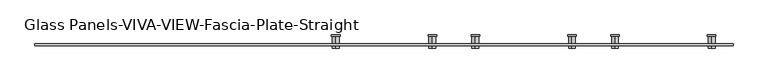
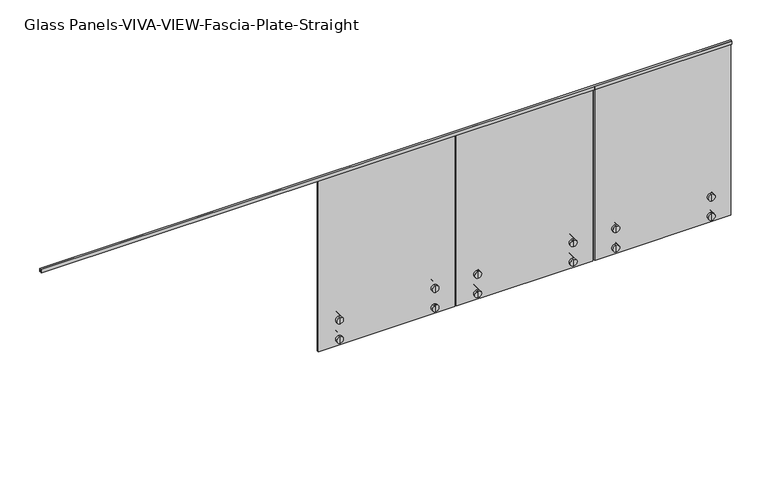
"""IFC4 building model written with IfcOpenShell, lengths in millimetres: railing geometry, Glass Panels-VIVA-VIEW-Fascia-Plate-Straight."""

from ifc_helpers import new_model, si_unit, point, frame, frame_2d, origin, place, context, project, spatial, polyline, circle_curve, trimmed, segment, composite_curve, outline, extrude, source, transform, mapped, element, save
from ifc_brep_helpers import plane_surface, cylinder_surface, advanced_brep


def glass_panels_viva_view_fascia_plate_straight_694c5218(model_context):
    return source(origin(), model_context, "Body", "SolidModel", [
        extrude(outline(polyline([(-15515.2972999, 1092.2), (-15515.2972999, 1066.8), (-15516.8847999, 1066.8), (-15516.8847999, 1090.6125), (-15529.5847999, 1090.6125), (-15529.5847999, 1066.8), (-15531.1722999, 1066.8), (-15531.1722999, 1092.2), (-15515.2972999, 1092.2)])), frame((15089.4712478, 0.0, 0.0), z_axis=(1.0, 0.0, 0.0), x_axis=(0.0, 1.0, 0.0)), (0.0, 0.0, 1.0), 5143.5),
        advanced_brep(
        [(19363.4042944, -15547.047006, -254.0), (19363.4042944, -15547.047006, -203.2), (19363.4042944, -15547.047006, -228.6), (19363.4042944, -15529.584506, -254.0), (19363.4042944, -15529.584506, -203.2), (19363.4042944, -15529.584506, -234.315), (19363.4042944, -15529.584506, -222.885), (19363.4042944, -15516.884506, -234.315), (19363.4042944, -15516.884506, -222.885), (19363.4042944, -15516.884506, -254.0), (19363.4042944, -15516.884506, -203.2), (19363.4042944, -15459.7346529, -254.0), (19363.4042944, -15459.7346529, -203.2), (19363.4042944, -15459.7346529, -228.6)],
        [
            (0, 1, circle_curve(frame((19363.4042944, -15547.047006, -228.6), z_axis=(0.0, -1.0, 0.0), x_axis=(0.0, 0.0, 1.0)), 25.4)),
            (1, 2),
            (2, 0),
            (1, 0, circle_curve(frame((19363.4042944, -15547.047006, -228.6), z_axis=(0.0, -1.0, 0.0), x_axis=(0.0, 0.0, 1.0)), 25.4)),
            (3, 4, circle_curve(frame((19363.4042944, -15529.584506, -228.6), z_axis=(0.0, -1.0, 0.0), x_axis=(0.0, 0.0, 1.0)), 25.4)),
            (4, 1),
            (0, 3),
            (4, 3, circle_curve(frame((19363.4042944, -15529.584506, -228.6), z_axis=(0.0, -1.0, 0.0), x_axis=(0.0, 0.0, 1.0)), 25.4)),
            (5, 6, circle_curve(frame((19363.4042944, -15529.584506, -228.6), z_axis=(0.0, -1.0, 0.0), x_axis=(0.0, 0.0, 1.0)), 5.715)),
            (6, 4),
            (3, 5),
            (6, 5, circle_curve(frame((19363.4042944, -15529.584506, -228.6), z_axis=(0.0, -1.0, 0.0), x_axis=(0.0, 0.0, 1.0)), 5.715)),
            (7, 8, circle_curve(frame((19363.4042944, -15516.884506, -228.6), z_axis=(0.0, -1.0, 0.0), x_axis=(0.0, 0.0, 1.0)), 5.715)),
            (8, 6),
            (5, 7),
            (8, 7, circle_curve(frame((19363.4042944, -15516.884506, -228.6), z_axis=(0.0, -1.0, 0.0), x_axis=(0.0, 0.0, 1.0)), 5.715)),
            (9, 10, circle_curve(frame((19363.4042944, -15516.884506, -228.6), z_axis=(0.0, -1.0, 0.0), x_axis=(0.0, 0.0, 1.0)), 25.4)),
            (10, 8),
            (7, 9),
            (10, 9, circle_curve(frame((19363.4042944, -15516.884506, -228.6), z_axis=(0.0, -1.0, 0.0), x_axis=(0.0, 0.0, 1.0)), 25.4)),
            (11, 12, circle_curve(frame((19363.4042944, -15459.7346529, -228.6), z_axis=(0.0, -1.0, 0.0), x_axis=(0.0, 0.0, 1.0)), 25.4)),
            (12, 10),
            (9, 11),
            (12, 11, circle_curve(frame((19363.4042944, -15459.7346529, -228.6), z_axis=(0.0, -1.0, 0.0), x_axis=(0.0, 0.0, 1.0)), 25.4)),
            (13, 12),
            (11, 13),
        ],
        [
            plane_surface(frame((19363.4042944, -15547.047006, -228.6), z_axis=(0.0, -1.0, 0.0), x_axis=(0.0, 0.0, 1.0))),
            cylinder_surface(frame((19363.4042944, -15615.3096529, -228.6), z_axis=(0.0, 1.0, 0.0), x_axis=(0.0, 0.0, 1.0)), 25.4),
            plane_surface(frame((19363.4042944, -15529.584506, -228.6), z_axis=(0.0, 1.0, 0.0), x_axis=(0.0, 0.0, 1.0))),
            cylinder_surface(frame((19363.4042944, -15615.3096529, -228.6), z_axis=(0.0, 1.0, 0.0), x_axis=(0.0, 0.0, 1.0)), 5.715),
            plane_surface(frame((19363.4042944, -15516.884506, -228.6), z_axis=(0.0, -1.0, 0.0), x_axis=(0.0, 0.0, 1.0))),
            plane_surface(frame((19363.4042944, -15459.7346529, -228.6), z_axis=(0.0, 1.0, 0.0), x_axis=(0.0, 0.0, 1.0))),
        ],
        [
            (0, [[1, 2, 3]]),
            (0, [[4, -3, -2]]),
            (1, [[5, 6, -1, 7]]),
            (1, [[8, -7, -4, -6]]),
            (2, [[9, 10, -5, 11]]),
            (2, [[12, -11, -8, -10]]),
            (3, [[13, 14, -9, 15]]),
            (3, [[16, -15, -12, -14]]),
            (4, [[17, 18, -13, 19]]),
            (4, [[20, -19, -16, -18]]),
            (1, [[21, 22, -17, 23]]),
            (1, [[24, -23, -20, -22]]),
            (5, [[25, -21, 26]]),
            (5, [[-26, -24, -25]]),
        ],
    ),
        advanced_brep(
        [(19363.4042944, -15529.584506, -81.915), (19363.4042944, -15529.584506, -70.485), (19363.4042944, -15529.584506, -50.8), (19363.4042944, -15529.584506, -101.6), (19363.4042944, -15516.884506, -81.915), (19363.4042944, -15516.884506, -70.485), (19363.4042944, -15516.884506, -101.6), (19363.4042944, -15516.884506, -50.8), (19363.4042944, -15459.7346529, -101.6), (19363.4042944, -15459.7346529, -50.8), (19363.4042944, -15459.7346529, -76.2), (19363.4042944, -15547.047006, -101.6), (19363.4042944, -15547.047006, -50.8), (19363.4042944, -15547.047006, -76.2)],
        [
            (0, 1, circle_curve(frame((19363.4042944, -15529.584506, -76.2), z_axis=(0.0, -1.0, 0.0), x_axis=(0.0, 0.0, 1.0)), 5.715)),
            (1, 2),
            (2, 3, circle_curve(frame((19363.4042944, -15529.584506, -76.2), z_axis=(0.0, 1.0, 0.0), x_axis=(0.0, 0.0, 1.0)), 25.4)),
            (3, 0),
            (1, 0, circle_curve(frame((19363.4042944, -15529.584506, -76.2), z_axis=(0.0, -1.0, 0.0), x_axis=(0.0, 0.0, 1.0)), 5.715)),
            (3, 2, circle_curve(frame((19363.4042944, -15529.584506, -76.2), z_axis=(0.0, 1.0, 0.0), x_axis=(0.0, 0.0, 1.0)), 25.4)),
            (4, 5, circle_curve(frame((19363.4042944, -15516.884506, -76.2), z_axis=(0.0, -1.0, 0.0), x_axis=(0.0, 0.0, 1.0)), 5.715)),
            (5, 1),
            (0, 4),
            (5, 4, circle_curve(frame((19363.4042944, -15516.884506, -76.2), z_axis=(0.0, -1.0, 0.0), x_axis=(0.0, 0.0, 1.0)), 5.715)),
            (6, 7, circle_curve(frame((19363.4042944, -15516.884506, -76.2), z_axis=(0.0, -1.0, 0.0), x_axis=(0.0, 0.0, 1.0)), 25.4)),
            (7, 5),
            (4, 6),
            (7, 6, circle_curve(frame((19363.4042944, -15516.884506, -76.2), z_axis=(0.0, -1.0, 0.0), x_axis=(0.0, 0.0, 1.0)), 25.4)),
            (8, 9, circle_curve(frame((19363.4042944, -15459.7346529, -76.2), z_axis=(0.0, -1.0, 0.0), x_axis=(0.0, 0.0, 1.0)), 25.4)),
            (9, 7),
            (6, 8),
            (9, 8, circle_curve(frame((19363.4042944, -15459.7346529, -76.2), z_axis=(0.0, -1.0, 0.0), x_axis=(0.0, 0.0, 1.0)), 25.4)),
            (10, 9),
            (8, 10),
            (11, 12, circle_curve(frame((19363.4042944, -15547.047006, -76.2), z_axis=(0.0, -1.0, 0.0), x_axis=(0.0, 0.0, 1.0)), 25.4)),
            (12, 13),
            (13, 11),
            (12, 11, circle_curve(frame((19363.4042944, -15547.047006, -76.2), z_axis=(0.0, -1.0, 0.0), x_axis=(0.0, 0.0, 1.0)), 25.4)),
            (2, 12),
            (11, 3),
        ],
        [
            plane_surface(frame((19363.4042944, -15529.584506, -76.2), z_axis=(0.0, 1.0, 0.0), x_axis=(0.0, 0.0, 1.0))),
            cylinder_surface(frame((19363.4042944, -15615.3096529, -76.2), z_axis=(0.0, 1.0, 0.0), x_axis=(0.0, 0.0, 1.0)), 5.715),
            plane_surface(frame((19363.4042944, -15516.884506, -76.2), z_axis=(0.0, -1.0, 0.0), x_axis=(0.0, 0.0, 1.0))),
            cylinder_surface(frame((19363.4042944, -15615.3096529, -76.2), z_axis=(0.0, 1.0, 0.0), x_axis=(0.0, 0.0, 1.0)), 25.4),
            plane_surface(frame((19363.4042944, -15459.7346529, -76.2), z_axis=(0.0, 1.0, 0.0), x_axis=(0.0, 0.0, 1.0))),
            plane_surface(frame((19363.4042944, -15547.047006, -76.2), z_axis=(0.0, -1.0, 0.0), x_axis=(0.0, 0.0, 1.0))),
        ],
        [
            (0, [[1, 2, 3, 4]]),
            (0, [[5, -4, 6, -2]]),
            (1, [[7, 8, -1, 9]]),
            (1, [[10, -9, -5, -8]]),
            (2, [[11, 12, -7, 13]]),
            (2, [[14, -13, -10, -12]]),
            (3, [[15, 16, -11, 17]]),
            (3, [[18, -17, -14, -16]]),
            (4, [[19, -15, 20]]),
            (4, [[-20, -18, -19]]),
            (5, [[21, 22, 23]]),
            (5, [[24, -23, -22]]),
            (3, [[-3, 25, -21, 26]]),
            (3, [[-6, -26, -24, -25]]),
        ],
    ),
        extrude(outline(composite_curve([segment(polyline([(-76.2, 19331.6542944), (-228.6, 19331.6542944)]), True, "CONTINUOUS"), segment(trimmed(circle_curve(frame_2d((-228.6, 19363.4042944)), 31.75), [point((-228.6, 19331.6542944))], [point((-228.6, 19395.1542944))], False, "CARTESIAN"), True, "CONTINUOUS"), segment(polyline([(-228.6, 19395.1542944), (-76.2, 19395.1542944)]), True, "CONTINUOUS"), segment(trimmed(circle_curve(frame_2d((-76.2, 19363.4042944)), 31.75), [point((-76.2, 19395.1542944))], [point((-76.2, 19331.6542944))], False, "CARTESIAN"), True, "CONTINUOUS")], self_intersect=False)), frame((0.0, -15459.7346529, 0.0), z_axis=(0.0, 1.0, 0.0), x_axis=(0.0, 0.0, 1.0)), (0.0, 0.0, 1.0), 9.525),
        advanced_brep(
        [(20074.6042944, -15547.047006, -254.0), (20074.6042944, -15547.047006, -203.2), (20074.6042944, -15547.047006, -228.6), (20074.6042944, -15529.584506, -254.0), (20074.6042944, -15529.584506, -203.2), (20074.6042944, -15529.584506, -234.315), (20074.6042944, -15529.584506, -222.885), (20074.6042944, -15516.884506, -234.315), (20074.6042944, -15516.884506, -222.885), (20074.6042944, -15516.884506, -254.0), (20074.6042944, -15516.884506, -203.2), (20074.6042944, -15459.7346529, -254.0), (20074.6042944, -15459.7346529, -203.2), (20074.6042944, -15459.7346529, -228.6)],
        [
            (0, 1, circle_curve(frame((20074.6042944, -15547.047006, -228.6), z_axis=(0.0, -1.0, 0.0), x_axis=(0.0, 0.0, 1.0)), 25.4)),
            (1, 2),
            (2, 0),
            (1, 0, circle_curve(frame((20074.6042944, -15547.047006, -228.6), z_axis=(0.0, -1.0, 0.0), x_axis=(0.0, 0.0, 1.0)), 25.4)),
            (3, 4, circle_curve(frame((20074.6042944, -15529.584506, -228.6), z_axis=(0.0, -1.0, 0.0), x_axis=(0.0, 0.0, 1.0)), 25.4)),
            (4, 1),
            (0, 3),
            (4, 3, circle_curve(frame((20074.6042944, -15529.584506, -228.6), z_axis=(0.0, -1.0, 0.0), x_axis=(0.0, 0.0, 1.0)), 25.4)),
            (5, 6, circle_curve(frame((20074.6042944, -15529.584506, -228.6), z_axis=(0.0, -1.0, 0.0), x_axis=(0.0, 0.0, 1.0)), 5.715)),
            (6, 4),
            (3, 5),
            (6, 5, circle_curve(frame((20074.6042944, -15529.584506, -228.6), z_axis=(0.0, -1.0, 0.0), x_axis=(0.0, 0.0, 1.0)), 5.715)),
            (7, 8, circle_curve(frame((20074.6042944, -15516.884506, -228.6), z_axis=(0.0, -1.0, 0.0), x_axis=(0.0, 0.0, 1.0)), 5.715)),
            (8, 6),
            (5, 7),
            (8, 7, circle_curve(frame((20074.6042944, -15516.884506, -228.6), z_axis=(0.0, -1.0, 0.0), x_axis=(0.0, 0.0, 1.0)), 5.715)),
            (9, 10, circle_curve(frame((20074.6042944, -15516.884506, -228.6), z_axis=(0.0, -1.0, 0.0), x_axis=(0.0, 0.0, 1.0)), 25.4)),
            (10, 8),
            (7, 9),
            (10, 9, circle_curve(frame((20074.6042944, -15516.884506, -228.6), z_axis=(0.0, -1.0, 0.0), x_axis=(0.0, 0.0, 1.0)), 25.4)),
            (11, 12, circle_curve(frame((20074.6042944, -15459.7346529, -228.6), z_axis=(0.0, -1.0, 0.0), x_axis=(0.0, 0.0, 1.0)), 25.4)),
            (12, 10),
            (9, 11),
            (12, 11, circle_curve(frame((20074.6042944, -15459.7346529, -228.6), z_axis=(0.0, -1.0, 0.0), x_axis=(0.0, 0.0, 1.0)), 25.4)),
            (13, 12),
            (11, 13),
        ],
        [
            plane_surface(frame((20074.6042944, -15547.047006, -228.6), z_axis=(0.0, -1.0, 0.0), x_axis=(0.0, 0.0, 1.0))),
            cylinder_surface(frame((20074.6042944, -15615.3096529, -228.6), z_axis=(0.0, 1.0, 0.0), x_axis=(0.0, 0.0, 1.0)), 25.4),
            plane_surface(frame((20074.6042944, -15529.584506, -228.6), z_axis=(0.0, 1.0, 0.0), x_axis=(0.0, 0.0, 1.0))),
            cylinder_surface(frame((20074.6042944, -15615.3096529, -228.6), z_axis=(0.0, 1.0, 0.0), x_axis=(0.0, 0.0, 1.0)), 5.715),
            plane_surface(frame((20074.6042944, -15516.884506, -228.6), z_axis=(0.0, -1.0, 0.0), x_axis=(0.0, 0.0, 1.0))),
            plane_surface(frame((20074.6042944, -15459.7346529, -228.6), z_axis=(0.0, 1.0, 0.0), x_axis=(0.0, 0.0, 1.0))),
        ],
        [
            (0, [[1, 2, 3]]),
            (0, [[4, -3, -2]]),
            (1, [[5, 6, -1, 7]]),
            (1, [[8, -7, -4, -6]]),
            (2, [[9, 10, -5, 11]]),
            (2, [[12, -11, -8, -10]]),
            (3, [[13, 14, -9, 15]]),
            (3, [[16, -15, -12, -14]]),
            (4, [[17, 18, -13, 19]]),
            (4, [[20, -19, -16, -18]]),
            (1, [[21, 22, -17, 23]]),
            (1, [[24, -23, -20, -22]]),
            (5, [[25, -21, 26]]),
            (5, [[-26, -24, -25]]),
        ],
    ),
        advanced_brep(
        [(20074.6042944, -15529.584506, -81.915), (20074.6042944, -15529.584506, -70.485), (20074.6042944, -15529.584506, -50.8), (20074.6042944, -15529.584506, -101.6), (20074.6042944, -15516.884506, -81.915), (20074.6042944, -15516.884506, -70.485), (20074.6042944, -15516.884506, -101.6), (20074.6042944, -15516.884506, -50.8), (20074.6042944, -15459.7346529, -101.6), (20074.6042944, -15459.7346529, -50.8), (20074.6042944, -15459.7346529, -76.2), (20074.6042944, -15547.047006, -101.6), (20074.6042944, -15547.047006, -50.8), (20074.6042944, -15547.047006, -76.2)],
        [
            (0, 1, circle_curve(frame((20074.6042944, -15529.584506, -76.2), z_axis=(0.0, -1.0, 0.0), x_axis=(0.0, 0.0, 1.0)), 5.715)),
            (1, 2),
            (2, 3, circle_curve(frame((20074.6042944, -15529.584506, -76.2), z_axis=(0.0, 1.0, 0.0), x_axis=(0.0, 0.0, 1.0)), 25.4)),
            (3, 0),
            (1, 0, circle_curve(frame((20074.6042944, -15529.584506, -76.2), z_axis=(0.0, -1.0, 0.0), x_axis=(0.0, 0.0, 1.0)), 5.715)),
            (3, 2, circle_curve(frame((20074.6042944, -15529.584506, -76.2), z_axis=(0.0, 1.0, 0.0), x_axis=(0.0, 0.0, 1.0)), 25.4)),
            (4, 5, circle_curve(frame((20074.6042944, -15516.884506, -76.2), z_axis=(0.0, -1.0, 0.0), x_axis=(0.0, 0.0, 1.0)), 5.715)),
            (5, 1),
            (0, 4),
            (5, 4, circle_curve(frame((20074.6042944, -15516.884506, -76.2), z_axis=(0.0, -1.0, 0.0), x_axis=(0.0, 0.0, 1.0)), 5.715)),
            (6, 7, circle_curve(frame((20074.6042944, -15516.884506, -76.2), z_axis=(0.0, -1.0, 0.0), x_axis=(0.0, 0.0, 1.0)), 25.4)),
            (7, 5),
            (4, 6),
            (7, 6, circle_curve(frame((20074.6042944, -15516.884506, -76.2), z_axis=(0.0, -1.0, 0.0), x_axis=(0.0, 0.0, 1.0)), 25.4)),
            (8, 9, circle_curve(frame((20074.6042944, -15459.7346529, -76.2), z_axis=(0.0, -1.0, 0.0), x_axis=(0.0, 0.0, 1.0)), 25.4)),
            (9, 7),
            (6, 8),
            (9, 8, circle_curve(frame((20074.6042944, -15459.7346529, -76.2), z_axis=(0.0, -1.0, 0.0), x_axis=(0.0, 0.0, 1.0)), 25.4)),
            (10, 9),
            (8, 10),
            (11, 12, circle_curve(frame((20074.6042944, -15547.047006, -76.2), z_axis=(0.0, -1.0, 0.0), x_axis=(0.0, 0.0, 1.0)), 25.4)),
            (12, 13),
            (13, 11),
            (12, 11, circle_curve(frame((20074.6042944, -15547.047006, -76.2), z_axis=(0.0, -1.0, 0.0), x_axis=(0.0, 0.0, 1.0)), 25.4)),
            (2, 12),
            (11, 3),
        ],
        [
            plane_surface(frame((20074.6042944, -15529.584506, -76.2), z_axis=(0.0, 1.0, 0.0), x_axis=(0.0, 0.0, 1.0))),
            cylinder_surface(frame((20074.6042944, -15615.3096529, -76.2), z_axis=(0.0, 1.0, 0.0), x_axis=(0.0, 0.0, 1.0)), 5.715),
            plane_surface(frame((20074.6042944, -15516.884506, -76.2), z_axis=(0.0, -1.0, 0.0), x_axis=(0.0, 0.0, 1.0))),
            cylinder_surface(frame((20074.6042944, -15615.3096529, -76.2), z_axis=(0.0, 1.0, 0.0), x_axis=(0.0, 0.0, 1.0)), 25.4),
            plane_surface(frame((20074.6042944, -15459.7346529, -76.2), z_axis=(0.0, 1.0, 0.0), x_axis=(0.0, 0.0, 1.0))),
            plane_surface(frame((20074.6042944, -15547.047006, -76.2), z_axis=(0.0, -1.0, 0.0), x_axis=(0.0, 0.0, 1.0))),
        ],
        [
            (0, [[1, 2, 3, 4]]),
            (0, [[5, -4, 6, -2]]),
            (1, [[7, 8, -1, 9]]),
            (1, [[10, -9, -5, -8]]),
            (2, [[11, 12, -7, 13]]),
            (2, [[14, -13, -10, -12]]),
            (3, [[15, 16, -11, 17]]),
            (3, [[18, -17, -14, -16]]),
            (4, [[19, -15, 20]]),
            (4, [[-20, -18, -19]]),
            (5, [[21, 22, 23]]),
            (5, [[24, -23, -22]]),
            (3, [[-3, 25, -21, 26]]),
            (3, [[-6, -26, -24, -25]]),
        ],
    ),
        extrude(outline(composite_curve([segment(polyline([(-76.2, 20042.8542944), (-228.6, 20042.8542944)]), True, "CONTINUOUS"), segment(trimmed(circle_curve(frame_2d((-228.6, 20074.6042944)), 31.75), [point((-228.6, 20042.8542944))], [point((-228.6, 20106.3542944))], False, "CARTESIAN"), True, "CONTINUOUS"), segment(polyline([(-228.6, 20106.3542944), (-76.2, 20106.3542944)]), True, "CONTINUOUS"), segment(trimmed(circle_curve(frame_2d((-76.2, 20074.6042944)), 31.75), [point((-76.2, 20106.3542944))], [point((-76.2, 20042.8542944))], False, "CARTESIAN"), True, "CONTINUOUS")], self_intersect=False)), frame((0.0, -15459.7346529, 0.0), z_axis=(0.0, 1.0, 0.0), x_axis=(0.0, 0.0, 1.0)), (0.0, 0.0, 1.0), 9.525),
        extrude(outline(polyline([(19211.0042944, -15516.8847999), (20227.0042944, -15516.8847999), (20227.0042944, -15529.5847999), (19211.0042944, -15529.5847999), (19211.0042944, -15516.8847999)])), frame((0.0, 0.0, -279.4), z_axis=(0.0, 0.0, 1.0), x_axis=(1.0, 0.0, 0.0)), (0.0, 0.0, 1.0), 1370.0125),
        advanced_brep(
        [(18334.7042944, -15547.047006, -254.0), (18334.7042944, -15547.047006, -203.2), (18334.7042944, -15547.047006, -228.6), (18334.7042944, -15529.584506, -254.0), (18334.7042944, -15529.584506, -203.2), (18334.7042944, -15529.584506, -234.315), (18334.7042944, -15529.584506, -222.885), (18334.7042944, -15516.884506, -234.315), (18334.7042944, -15516.884506, -222.885), (18334.7042944, -15516.884506, -254.0), (18334.7042944, -15516.884506, -203.2), (18334.7042944, -15459.7346529, -254.0), (18334.7042944, -15459.7346529, -203.2), (18334.7042944, -15459.7346529, -228.6)],
        [
            (0, 1, circle_curve(frame((18334.7042944, -15547.047006, -228.6), z_axis=(0.0, -1.0, 0.0), x_axis=(0.0, 0.0, 1.0)), 25.4)),
            (1, 2),
            (2, 0),
            (1, 0, circle_curve(frame((18334.7042944, -15547.047006, -228.6), z_axis=(0.0, -1.0, 0.0), x_axis=(0.0, 0.0, 1.0)), 25.4)),
            (3, 4, circle_curve(frame((18334.7042944, -15529.584506, -228.6), z_axis=(0.0, -1.0, 0.0), x_axis=(0.0, 0.0, 1.0)), 25.4)),
            (4, 1),
            (0, 3),
            (4, 3, circle_curve(frame((18334.7042944, -15529.584506, -228.6), z_axis=(0.0, -1.0, 0.0), x_axis=(0.0, 0.0, 1.0)), 25.4)),
            (5, 6, circle_curve(frame((18334.7042944, -15529.584506, -228.6), z_axis=(0.0, -1.0, 0.0), x_axis=(0.0, 0.0, 1.0)), 5.715)),
            (6, 4),
            (3, 5),
            (6, 5, circle_curve(frame((18334.7042944, -15529.584506, -228.6), z_axis=(0.0, -1.0, 0.0), x_axis=(0.0, 0.0, 1.0)), 5.715)),
            (7, 8, circle_curve(frame((18334.7042944, -15516.884506, -228.6), z_axis=(0.0, -1.0, 0.0), x_axis=(0.0, 0.0, 1.0)), 5.715)),
            (8, 6),
            (5, 7),
            (8, 7, circle_curve(frame((18334.7042944, -15516.884506, -228.6), z_axis=(0.0, -1.0, 0.0), x_axis=(0.0, 0.0, 1.0)), 5.715)),
            (9, 10, circle_curve(frame((18334.7042944, -15516.884506, -228.6), z_axis=(0.0, -1.0, 0.0), x_axis=(0.0, 0.0, 1.0)), 25.4)),
            (10, 8),
            (7, 9),
            (10, 9, circle_curve(frame((18334.7042944, -15516.884506, -228.6), z_axis=(0.0, -1.0, 0.0), x_axis=(0.0, 0.0, 1.0)), 25.4)),
            (11, 12, circle_curve(frame((18334.7042944, -15459.7346529, -228.6), z_axis=(0.0, -1.0, 0.0), x_axis=(0.0, 0.0, 1.0)), 25.4)),
            (12, 10),
            (9, 11),
            (12, 11, circle_curve(frame((18334.7042944, -15459.7346529, -228.6), z_axis=(0.0, -1.0, 0.0), x_axis=(0.0, 0.0, 1.0)), 25.4)),
            (13, 12),
            (11, 13),
        ],
        [
            plane_surface(frame((18334.7042944, -15547.047006, -228.6), z_axis=(0.0, -1.0, 0.0), x_axis=(0.0, 0.0, 1.0))),
            cylinder_surface(frame((18334.7042944, -15615.3096529, -228.6), z_axis=(0.0, 1.0, 0.0), x_axis=(0.0, 0.0, 1.0)), 25.4),
            plane_surface(frame((18334.7042944, -15529.584506, -228.6), z_axis=(0.0, 1.0, 0.0), x_axis=(0.0, 0.0, 1.0))),
            cylinder_surface(frame((18334.7042944, -15615.3096529, -228.6), z_axis=(0.0, 1.0, 0.0), x_axis=(0.0, 0.0, 1.0)), 5.715),
            plane_surface(frame((18334.7042944, -15516.884506, -228.6), z_axis=(0.0, -1.0, 0.0), x_axis=(0.0, 0.0, 1.0))),
            plane_surface(frame((18334.7042944, -15459.7346529, -228.6), z_axis=(0.0, 1.0, 0.0), x_axis=(0.0, 0.0, 1.0))),
        ],
        [
            (0, [[1, 2, 3]]),
            (0, [[4, -3, -2]]),
            (1, [[5, 6, -1, 7]]),
            (1, [[8, -7, -4, -6]]),
            (2, [[9, 10, -5, 11]]),
            (2, [[12, -11, -8, -10]]),
            (3, [[13, 14, -9, 15]]),
            (3, [[16, -15, -12, -14]]),
            (4, [[17, 18, -13, 19]]),
            (4, [[20, -19, -16, -18]]),
            (1, [[21, 22, -17, 23]]),
            (1, [[24, -23, -20, -22]]),
            (5, [[25, -21, 26]]),
            (5, [[-26, -24, -25]]),
        ],
    ),
        advanced_brep(
        [(18334.7042944, -15529.584506, -81.915), (18334.7042944, -15529.584506, -70.485), (18334.7042944, -15529.584506, -50.8), (18334.7042944, -15529.584506, -101.6), (18334.7042944, -15516.884506, -81.915), (18334.7042944, -15516.884506, -70.485), (18334.7042944, -15516.884506, -101.6), (18334.7042944, -15516.884506, -50.8), (18334.7042944, -15459.7346529, -101.6), (18334.7042944, -15459.7346529, -50.8), (18334.7042944, -15459.7346529, -76.2), (18334.7042944, -15547.047006, -101.6), (18334.7042944, -15547.047006, -50.8), (18334.7042944, -15547.047006, -76.2)],
        [
            (0, 1, circle_curve(frame((18334.7042944, -15529.584506, -76.2), z_axis=(0.0, -1.0, 0.0), x_axis=(0.0, 0.0, 1.0)), 5.715)),
            (1, 2),
            (2, 3, circle_curve(frame((18334.7042944, -15529.584506, -76.2), z_axis=(0.0, 1.0, 0.0), x_axis=(0.0, 0.0, 1.0)), 25.4)),
            (3, 0),
            (1, 0, circle_curve(frame((18334.7042944, -15529.584506, -76.2), z_axis=(0.0, -1.0, 0.0), x_axis=(0.0, 0.0, 1.0)), 5.715)),
            (3, 2, circle_curve(frame((18334.7042944, -15529.584506, -76.2), z_axis=(0.0, 1.0, 0.0), x_axis=(0.0, 0.0, 1.0)), 25.4)),
            (4, 5, circle_curve(frame((18334.7042944, -15516.884506, -76.2), z_axis=(0.0, -1.0, 0.0), x_axis=(0.0, 0.0, 1.0)), 5.715)),
            (5, 1),
            (0, 4),
            (5, 4, circle_curve(frame((18334.7042944, -15516.884506, -76.2), z_axis=(0.0, -1.0, 0.0), x_axis=(0.0, 0.0, 1.0)), 5.715)),
            (6, 7, circle_curve(frame((18334.7042944, -15516.884506, -76.2), z_axis=(0.0, -1.0, 0.0), x_axis=(0.0, 0.0, 1.0)), 25.4)),
            (7, 5),
            (4, 6),
            (7, 6, circle_curve(frame((18334.7042944, -15516.884506, -76.2), z_axis=(0.0, -1.0, 0.0), x_axis=(0.0, 0.0, 1.0)), 25.4)),
            (8, 9, circle_curve(frame((18334.7042944, -15459.7346529, -76.2), z_axis=(0.0, -1.0, 0.0), x_axis=(0.0, 0.0, 1.0)), 25.4)),
            (9, 7),
            (6, 8),
            (9, 8, circle_curve(frame((18334.7042944, -15459.7346529, -76.2), z_axis=(0.0, -1.0, 0.0), x_axis=(0.0, 0.0, 1.0)), 25.4)),
            (10, 9),
            (8, 10),
            (11, 12, circle_curve(frame((18334.7042944, -15547.047006, -76.2), z_axis=(0.0, -1.0, 0.0), x_axis=(0.0, 0.0, 1.0)), 25.4)),
            (12, 13),
            (13, 11),
            (12, 11, circle_curve(frame((18334.7042944, -15547.047006, -76.2), z_axis=(0.0, -1.0, 0.0), x_axis=(0.0, 0.0, 1.0)), 25.4)),
            (2, 12),
            (11, 3),
        ],
        [
            plane_surface(frame((18334.7042944, -15529.584506, -76.2), z_axis=(0.0, 1.0, 0.0), x_axis=(0.0, 0.0, 1.0))),
            cylinder_surface(frame((18334.7042944, -15615.3096529, -76.2), z_axis=(0.0, 1.0, 0.0), x_axis=(0.0, 0.0, 1.0)), 5.715),
            plane_surface(frame((18334.7042944, -15516.884506, -76.2), z_axis=(0.0, -1.0, 0.0), x_axis=(0.0, 0.0, 1.0))),
            cylinder_surface(frame((18334.7042944, -15615.3096529, -76.2), z_axis=(0.0, 1.0, 0.0), x_axis=(0.0, 0.0, 1.0)), 25.4),
            plane_surface(frame((18334.7042944, -15459.7346529, -76.2), z_axis=(0.0, 1.0, 0.0), x_axis=(0.0, 0.0, 1.0))),
            plane_surface(frame((18334.7042944, -15547.047006, -76.2), z_axis=(0.0, -1.0, 0.0), x_axis=(0.0, 0.0, 1.0))),
        ],
        [
            (0, [[1, 2, 3, 4]]),
            (0, [[5, -4, 6, -2]]),
            (1, [[7, 8, -1, 9]]),
            (1, [[10, -9, -5, -8]]),
            (2, [[11, 12, -7, 13]]),
            (2, [[14, -13, -10, -12]]),
            (3, [[15, 16, -11, 17]]),
            (3, [[18, -17, -14, -16]]),
            (4, [[19, -15, 20]]),
            (4, [[-20, -18, -19]]),
            (5, [[21, 22, 23]]),
            (5, [[24, -23, -22]]),
            (3, [[-3, 25, -21, 26]]),
            (3, [[-6, -26, -24, -25]]),
        ],
    ),
        extrude(outline(composite_curve([segment(polyline([(-76.2, 18302.9542944), (-228.6, 18302.9542944)]), True, "CONTINUOUS"), segment(trimmed(circle_curve(frame_2d((-228.6, 18334.7042944)), 31.75), [point((-228.6, 18302.9542944))], [point((-228.6, 18366.4542944))], False, "CARTESIAN"), True, "CONTINUOUS"), segment(polyline([(-228.6, 18366.4542944), (-76.2, 18366.4542944)]), True, "CONTINUOUS"), segment(trimmed(circle_curve(frame_2d((-76.2, 18334.7042944)), 31.75), [point((-76.2, 18366.4542944))], [point((-76.2, 18302.9542944))], False, "CARTESIAN"), True, "CONTINUOUS")], self_intersect=False)), frame((0.0, -15459.7346529, 0.0), z_axis=(0.0, 1.0, 0.0), x_axis=(0.0, 0.0, 1.0)), (0.0, 0.0, 1.0), 9.525),
        advanced_brep(
        [(19045.9042944, -15547.047006, -254.0), (19045.9042944, -15547.047006, -203.2), (19045.9042944, -15547.047006, -228.6), (19045.9042944, -15529.584506, -254.0), (19045.9042944, -15529.584506, -203.2), (19045.9042944, -15529.584506, -234.315), (19045.9042944, -15529.584506, -222.885), (19045.9042944, -15516.884506, -234.315), (19045.9042944, -15516.884506, -222.885), (19045.9042944, -15516.884506, -254.0), (19045.9042944, -15516.884506, -203.2), (19045.9042944, -15459.7346529, -254.0), (19045.9042944, -15459.7346529, -203.2), (19045.9042944, -15459.7346529, -228.6)],
        [
            (0, 1, circle_curve(frame((19045.9042944, -15547.047006, -228.6), z_axis=(0.0, -1.0, 0.0), x_axis=(0.0, 0.0, 1.0)), 25.4)),
            (1, 2),
            (2, 0),
            (1, 0, circle_curve(frame((19045.9042944, -15547.047006, -228.6), z_axis=(0.0, -1.0, 0.0), x_axis=(0.0, 0.0, 1.0)), 25.4)),
            (3, 4, circle_curve(frame((19045.9042944, -15529.584506, -228.6), z_axis=(0.0, -1.0, 0.0), x_axis=(0.0, 0.0, 1.0)), 25.4)),
            (4, 1),
            (0, 3),
            (4, 3, circle_curve(frame((19045.9042944, -15529.584506, -228.6), z_axis=(0.0, -1.0, 0.0), x_axis=(0.0, 0.0, 1.0)), 25.4)),
            (5, 6, circle_curve(frame((19045.9042944, -15529.584506, -228.6), z_axis=(0.0, -1.0, 0.0), x_axis=(0.0, 0.0, 1.0)), 5.715)),
            (6, 4),
            (3, 5),
            (6, 5, circle_curve(frame((19045.9042944, -15529.584506, -228.6), z_axis=(0.0, -1.0, 0.0), x_axis=(0.0, 0.0, 1.0)), 5.715)),
            (7, 8, circle_curve(frame((19045.9042944, -15516.884506, -228.6), z_axis=(0.0, -1.0, 0.0), x_axis=(0.0, 0.0, 1.0)), 5.715)),
            (8, 6),
            (5, 7),
            (8, 7, circle_curve(frame((19045.9042944, -15516.884506, -228.6), z_axis=(0.0, -1.0, 0.0), x_axis=(0.0, 0.0, 1.0)), 5.715)),
            (9, 10, circle_curve(frame((19045.9042944, -15516.884506, -228.6), z_axis=(0.0, -1.0, 0.0), x_axis=(0.0, 0.0, 1.0)), 25.4)),
            (10, 8),
            (7, 9),
            (10, 9, circle_curve(frame((19045.9042944, -15516.884506, -228.6), z_axis=(0.0, -1.0, 0.0), x_axis=(0.0, 0.0, 1.0)), 25.4)),
            (11, 12, circle_curve(frame((19045.9042944, -15459.7346529, -228.6), z_axis=(0.0, -1.0, 0.0), x_axis=(0.0, 0.0, 1.0)), 25.4)),
            (12, 10),
            (9, 11),
            (12, 11, circle_curve(frame((19045.9042944, -15459.7346529, -228.6), z_axis=(0.0, -1.0, 0.0), x_axis=(0.0, 0.0, 1.0)), 25.4)),
            (13, 12),
            (11, 13),
        ],
        [
            plane_surface(frame((19045.9042944, -15547.047006, -228.6), z_axis=(0.0, -1.0, 0.0), x_axis=(0.0, 0.0, 1.0))),
            cylinder_surface(frame((19045.9042944, -15615.3096529, -228.6), z_axis=(0.0, 1.0, 0.0), x_axis=(0.0, 0.0, 1.0)), 25.4),
            plane_surface(frame((19045.9042944, -15529.584506, -228.6), z_axis=(0.0, 1.0, 0.0), x_axis=(0.0, 0.0, 1.0))),
            cylinder_surface(frame((19045.9042944, -15615.3096529, -228.6), z_axis=(0.0, 1.0, 0.0), x_axis=(0.0, 0.0, 1.0)), 5.715),
            plane_surface(frame((19045.9042944, -15516.884506, -228.6), z_axis=(0.0, -1.0, 0.0), x_axis=(0.0, 0.0, 1.0))),
            plane_surface(frame((19045.9042944, -15459.7346529, -228.6), z_axis=(0.0, 1.0, 0.0), x_axis=(0.0, 0.0, 1.0))),
        ],
        [
            (0, [[1, 2, 3]]),
            (0, [[4, -3, -2]]),
            (1, [[5, 6, -1, 7]]),
            (1, [[8, -7, -4, -6]]),
            (2, [[9, 10, -5, 11]]),
            (2, [[12, -11, -8, -10]]),
            (3, [[13, 14, -9, 15]]),
            (3, [[16, -15, -12, -14]]),
            (4, [[17, 18, -13, 19]]),
            (4, [[20, -19, -16, -18]]),
            (1, [[21, 22, -17, 23]]),
            (1, [[24, -23, -20, -22]]),
            (5, [[25, -21, 26]]),
            (5, [[-26, -24, -25]]),
        ],
    ),
        advanced_brep(
        [(19045.9042944, -15529.584506, -81.915), (19045.9042944, -15529.584506, -70.485), (19045.9042944, -15529.584506, -50.8), (19045.9042944, -15529.584506, -101.6), (19045.9042944, -15516.884506, -81.915), (19045.9042944, -15516.884506, -70.485), (19045.9042944, -15516.884506, -101.6), (19045.9042944, -15516.884506, -50.8), (19045.9042944, -15459.7346529, -101.6), (19045.9042944, -15459.7346529, -50.8), (19045.9042944, -15459.7346529, -76.2), (19045.9042944, -15547.047006, -101.6), (19045.9042944, -15547.047006, -50.8), (19045.9042944, -15547.047006, -76.2)],
        [
            (0, 1, circle_curve(frame((19045.9042944, -15529.584506, -76.2), z_axis=(0.0, -1.0, 0.0), x_axis=(0.0, 0.0, 1.0)), 5.715)),
            (1, 2),
            (2, 3, circle_curve(frame((19045.9042944, -15529.584506, -76.2), z_axis=(0.0, 1.0, 0.0), x_axis=(0.0, 0.0, 1.0)), 25.4)),
            (3, 0),
            (1, 0, circle_curve(frame((19045.9042944, -15529.584506, -76.2), z_axis=(0.0, -1.0, 0.0), x_axis=(0.0, 0.0, 1.0)), 5.715)),
            (3, 2, circle_curve(frame((19045.9042944, -15529.584506, -76.2), z_axis=(0.0, 1.0, 0.0), x_axis=(0.0, 0.0, 1.0)), 25.4)),
            (4, 5, circle_curve(frame((19045.9042944, -15516.884506, -76.2), z_axis=(0.0, -1.0, 0.0), x_axis=(0.0, 0.0, 1.0)), 5.715)),
            (5, 1),
            (0, 4),
            (5, 4, circle_curve(frame((19045.9042944, -15516.884506, -76.2), z_axis=(0.0, -1.0, 0.0), x_axis=(0.0, 0.0, 1.0)), 5.715)),
            (6, 7, circle_curve(frame((19045.9042944, -15516.884506, -76.2), z_axis=(0.0, -1.0, 0.0), x_axis=(0.0, 0.0, 1.0)), 25.4)),
            (7, 5),
            (4, 6),
            (7, 6, circle_curve(frame((19045.9042944, -15516.884506, -76.2), z_axis=(0.0, -1.0, 0.0), x_axis=(0.0, 0.0, 1.0)), 25.4)),
            (8, 9, circle_curve(frame((19045.9042944, -15459.7346529, -76.2), z_axis=(0.0, -1.0, 0.0), x_axis=(0.0, 0.0, 1.0)), 25.4)),
            (9, 7),
            (6, 8),
            (9, 8, circle_curve(frame((19045.9042944, -15459.7346529, -76.2), z_axis=(0.0, -1.0, 0.0), x_axis=(0.0, 0.0, 1.0)), 25.4)),
            (10, 9),
            (8, 10),
            (11, 12, circle_curve(frame((19045.9042944, -15547.047006, -76.2), z_axis=(0.0, -1.0, 0.0), x_axis=(0.0, 0.0, 1.0)), 25.4)),
            (12, 13),
            (13, 11),
            (12, 11, circle_curve(frame((19045.9042944, -15547.047006, -76.2), z_axis=(0.0, -1.0, 0.0), x_axis=(0.0, 0.0, 1.0)), 25.4)),
            (2, 12),
            (11, 3),
        ],
        [
            plane_surface(frame((19045.9042944, -15529.584506, -76.2), z_axis=(0.0, 1.0, 0.0), x_axis=(0.0, 0.0, 1.0))),
            cylinder_surface(frame((19045.9042944, -15615.3096529, -76.2), z_axis=(0.0, 1.0, 0.0), x_axis=(0.0, 0.0, 1.0)), 5.715),
            plane_surface(frame((19045.9042944, -15516.884506, -76.2), z_axis=(0.0, -1.0, 0.0), x_axis=(0.0, 0.0, 1.0))),
            cylinder_surface(frame((19045.9042944, -15615.3096529, -76.2), z_axis=(0.0, 1.0, 0.0), x_axis=(0.0, 0.0, 1.0)), 25.4),
            plane_surface(frame((19045.9042944, -15459.7346529, -76.2), z_axis=(0.0, 1.0, 0.0), x_axis=(0.0, 0.0, 1.0))),
            plane_surface(frame((19045.9042944, -15547.047006, -76.2), z_axis=(0.0, -1.0, 0.0), x_axis=(0.0, 0.0, 1.0))),
        ],
        [
            (0, [[1, 2, 3, 4]]),
            (0, [[5, -4, 6, -2]]),
            (1, [[7, 8, -1, 9]]),
            (1, [[10, -9, -5, -8]]),
            (2, [[11, 12, -7, 13]]),
            (2, [[14, -13, -10, -12]]),
            (3, [[15, 16, -11, 17]]),
            (3, [[18, -17, -14, -16]]),
            (4, [[19, -15, 20]]),
            (4, [[-20, -18, -19]]),
            (5, [[21, 22, 23]]),
            (5, [[24, -23, -22]]),
            (3, [[-3, 25, -21, 26]]),
            (3, [[-6, -26, -24, -25]]),
        ],
    ),
        extrude(outline(composite_curve([segment(polyline([(-76.2, 19014.1542944), (-228.6, 19014.1542944)]), True, "CONTINUOUS"), segment(trimmed(circle_curve(frame_2d((-228.6, 19045.9042944)), 31.75), [point((-228.6, 19014.1542944))], [point((-228.6, 19077.6542944))], False, "CARTESIAN"), True, "CONTINUOUS"), segment(polyline([(-228.6, 19077.6542944), (-76.2, 19077.6542944)]), True, "CONTINUOUS"), segment(trimmed(circle_curve(frame_2d((-76.2, 19045.9042944)), 31.75), [point((-76.2, 19077.6542944))], [point((-76.2, 19014.1542944))], False, "CARTESIAN"), True, "CONTINUOUS")], self_intersect=False)), frame((0.0, -15459.7346529, 0.0), z_axis=(0.0, 1.0, 0.0), x_axis=(0.0, 0.0, 1.0)), (0.0, 0.0, 1.0), 9.525),
        extrude(outline(polyline([(18182.3042944, -15516.8847999), (19198.3042944, -15516.8847999), (19198.3042944, -15529.5847999), (18182.3042944, -15529.5847999), (18182.3042944, -15516.8847999)])), frame((0.0, 0.0, -279.4), z_axis=(0.0, 0.0, 1.0), x_axis=(1.0, 0.0, 0.0)), (0.0, 0.0, 1.0), 1370.0125),
        advanced_brep(
        [(17306.0042944, -15547.047006, -254.0), (17306.0042944, -15547.047006, -203.2), (17306.0042944, -15547.047006, -228.6), (17306.0042944, -15529.584506, -254.0), (17306.0042944, -15529.584506, -203.2), (17306.0042944, -15529.584506, -234.315), (17306.0042944, -15529.584506, -222.885), (17306.0042944, -15516.884506, -234.315), (17306.0042944, -15516.884506, -222.885), (17306.0042944, -15516.884506, -254.0), (17306.0042944, -15516.884506, -203.2), (17306.0042944, -15459.7346529, -254.0), (17306.0042944, -15459.7346529, -203.2), (17306.0042944, -15459.7346529, -228.6)],
        [
            (0, 1, circle_curve(frame((17306.0042944, -15547.047006, -228.6), z_axis=(0.0, -1.0, 0.0), x_axis=(0.0, 0.0, 1.0)), 25.4)),
            (1, 2),
            (2, 0),
            (1, 0, circle_curve(frame((17306.0042944, -15547.047006, -228.6), z_axis=(0.0, -1.0, 0.0), x_axis=(0.0, 0.0, 1.0)), 25.4)),
            (3, 4, circle_curve(frame((17306.0042944, -15529.584506, -228.6), z_axis=(0.0, -1.0, 0.0), x_axis=(0.0, 0.0, 1.0)), 25.4)),
            (4, 1),
            (0, 3),
            (4, 3, circle_curve(frame((17306.0042944, -15529.584506, -228.6), z_axis=(0.0, -1.0, 0.0), x_axis=(0.0, 0.0, 1.0)), 25.4)),
            (5, 6, circle_curve(frame((17306.0042944, -15529.584506, -228.6), z_axis=(0.0, -1.0, 0.0), x_axis=(0.0, 0.0, 1.0)), 5.715)),
            (6, 4),
            (3, 5),
            (6, 5, circle_curve(frame((17306.0042944, -15529.584506, -228.6), z_axis=(0.0, -1.0, 0.0), x_axis=(0.0, 0.0, 1.0)), 5.715)),
            (7, 8, circle_curve(frame((17306.0042944, -15516.884506, -228.6), z_axis=(0.0, -1.0, 0.0), x_axis=(0.0, 0.0, 1.0)), 5.715)),
            (8, 6),
            (5, 7),
            (8, 7, circle_curve(frame((17306.0042944, -15516.884506, -228.6), z_axis=(0.0, -1.0, 0.0), x_axis=(0.0, 0.0, 1.0)), 5.715)),
            (9, 10, circle_curve(frame((17306.0042944, -15516.884506, -228.6), z_axis=(0.0, -1.0, 0.0), x_axis=(0.0, 0.0, 1.0)), 25.4)),
            (10, 8),
            (7, 9),
            (10, 9, circle_curve(frame((17306.0042944, -15516.884506, -228.6), z_axis=(0.0, -1.0, 0.0), x_axis=(0.0, 0.0, 1.0)), 25.4)),
            (11, 12, circle_curve(frame((17306.0042944, -15459.7346529, -228.6), z_axis=(0.0, -1.0, 0.0), x_axis=(0.0, 0.0, 1.0)), 25.4)),
            (12, 10),
            (9, 11),
            (12, 11, circle_curve(frame((17306.0042944, -15459.7346529, -228.6), z_axis=(0.0, -1.0, 0.0), x_axis=(0.0, 0.0, 1.0)), 25.4)),
            (13, 12),
            (11, 13),
        ],
        [
            plane_surface(frame((17306.0042944, -15547.047006, -228.6), z_axis=(0.0, -1.0, 0.0), x_axis=(0.0, 0.0, 1.0))),
            cylinder_surface(frame((17306.0042944, -15615.3096529, -228.6), z_axis=(0.0, 1.0, 0.0), x_axis=(0.0, 0.0, 1.0)), 25.4),
            plane_surface(frame((17306.0042944, -15529.584506, -228.6), z_axis=(0.0, 1.0, 0.0), x_axis=(0.0, 0.0, 1.0))),
            cylinder_surface(frame((17306.0042944, -15615.3096529, -228.6), z_axis=(0.0, 1.0, 0.0), x_axis=(0.0, 0.0, 1.0)), 5.715),
            plane_surface(frame((17306.0042944, -15516.884506, -228.6), z_axis=(0.0, -1.0, 0.0), x_axis=(0.0, 0.0, 1.0))),
            plane_surface(frame((17306.0042944, -15459.7346529, -228.6), z_axis=(0.0, 1.0, 0.0), x_axis=(0.0, 0.0, 1.0))),
        ],
        [
            (0, [[1, 2, 3]]),
            (0, [[4, -3, -2]]),
            (1, [[5, 6, -1, 7]]),
            (1, [[8, -7, -4, -6]]),
            (2, [[9, 10, -5, 11]]),
            (2, [[12, -11, -8, -10]]),
            (3, [[13, 14, -9, 15]]),
            (3, [[16, -15, -12, -14]]),
            (4, [[17, 18, -13, 19]]),
            (4, [[20, -19, -16, -18]]),
            (1, [[21, 22, -17, 23]]),
            (1, [[24, -23, -20, -22]]),
            (5, [[25, -21, 26]]),
            (5, [[-26, -24, -25]]),
        ],
    ),
        advanced_brep(
        [(17306.0042944, -15529.584506, -81.915), (17306.0042944, -15529.584506, -70.485), (17306.0042944, -15529.584506, -50.8), (17306.0042944, -15529.584506, -101.6), (17306.0042944, -15516.884506, -81.915), (17306.0042944, -15516.884506, -70.485), (17306.0042944, -15516.884506, -101.6), (17306.0042944, -15516.884506, -50.8), (17306.0042944, -15459.7346529, -101.6), (17306.0042944, -15459.7346529, -50.8), (17306.0042944, -15459.7346529, -76.2), (17306.0042944, -15547.047006, -101.6), (17306.0042944, -15547.047006, -50.8), (17306.0042944, -15547.047006, -76.2)],
        [
            (0, 1, circle_curve(frame((17306.0042944, -15529.584506, -76.2), z_axis=(0.0, -1.0, 0.0), x_axis=(0.0, 0.0, 1.0)), 5.715)),
            (1, 2),
            (2, 3, circle_curve(frame((17306.0042944, -15529.584506, -76.2), z_axis=(0.0, 1.0, 0.0), x_axis=(0.0, 0.0, 1.0)), 25.4)),
            (3, 0),
            (1, 0, circle_curve(frame((17306.0042944, -15529.584506, -76.2), z_axis=(0.0, -1.0, 0.0), x_axis=(0.0, 0.0, 1.0)), 5.715)),
            (3, 2, circle_curve(frame((17306.0042944, -15529.584506, -76.2), z_axis=(0.0, 1.0, 0.0), x_axis=(0.0, 0.0, 1.0)), 25.4)),
            (4, 5, circle_curve(frame((17306.0042944, -15516.884506, -76.2), z_axis=(0.0, -1.0, 0.0), x_axis=(0.0, 0.0, 1.0)), 5.715)),
            (5, 1),
            (0, 4),
            (5, 4, circle_curve(frame((17306.0042944, -15516.884506, -76.2), z_axis=(0.0, -1.0, 0.0), x_axis=(0.0, 0.0, 1.0)), 5.715)),
            (6, 7, circle_curve(frame((17306.0042944, -15516.884506, -76.2), z_axis=(0.0, -1.0, 0.0), x_axis=(0.0, 0.0, 1.0)), 25.4)),
            (7, 5),
            (4, 6),
            (7, 6, circle_curve(frame((17306.0042944, -15516.884506, -76.2), z_axis=(0.0, -1.0, 0.0), x_axis=(0.0, 0.0, 1.0)), 25.4)),
            (8, 9, circle_curve(frame((17306.0042944, -15459.7346529, -76.2), z_axis=(0.0, -1.0, 0.0), x_axis=(0.0, 0.0, 1.0)), 25.4)),
            (9, 7),
            (6, 8),
            (9, 8, circle_curve(frame((17306.0042944, -15459.7346529, -76.2), z_axis=(0.0, -1.0, 0.0), x_axis=(0.0, 0.0, 1.0)), 25.4)),
            (10, 9),
            (8, 10),
            (11, 12, circle_curve(frame((17306.0042944, -15547.047006, -76.2), z_axis=(0.0, -1.0, 0.0), x_axis=(0.0, 0.0, 1.0)), 25.4)),
            (12, 13),
            (13, 11),
            (12, 11, circle_curve(frame((17306.0042944, -15547.047006, -76.2), z_axis=(0.0, -1.0, 0.0), x_axis=(0.0, 0.0, 1.0)), 25.4)),
            (2, 12),
            (11, 3),
        ],
        [
            plane_surface(frame((17306.0042944, -15529.584506, -76.2), z_axis=(0.0, 1.0, 0.0), x_axis=(0.0, 0.0, 1.0))),
            cylinder_surface(frame((17306.0042944, -15615.3096529, -76.2), z_axis=(0.0, 1.0, 0.0), x_axis=(0.0, 0.0, 1.0)), 5.715),
            plane_surface(frame((17306.0042944, -15516.884506, -76.2), z_axis=(0.0, -1.0, 0.0), x_axis=(0.0, 0.0, 1.0))),
            cylinder_surface(frame((17306.0042944, -15615.3096529, -76.2), z_axis=(0.0, 1.0, 0.0), x_axis=(0.0, 0.0, 1.0)), 25.4),
            plane_surface(frame((17306.0042944, -15459.7346529, -76.2), z_axis=(0.0, 1.0, 0.0), x_axis=(0.0, 0.0, 1.0))),
            plane_surface(frame((17306.0042944, -15547.047006, -76.2), z_axis=(0.0, -1.0, 0.0), x_axis=(0.0, 0.0, 1.0))),
        ],
        [
            (0, [[1, 2, 3, 4]]),
            (0, [[5, -4, 6, -2]]),
            (1, [[7, 8, -1, 9]]),
            (1, [[10, -9, -5, -8]]),
            (2, [[11, 12, -7, 13]]),
            (2, [[14, -13, -10, -12]]),
            (3, [[15, 16, -11, 17]]),
            (3, [[18, -17, -14, -16]]),
            (4, [[19, -15, 20]]),
            (4, [[-20, -18, -19]]),
            (5, [[21, 22, 23]]),
            (5, [[24, -23, -22]]),
            (3, [[-3, 25, -21, 26]]),
            (3, [[-6, -26, -24, -25]]),
        ],
    ),
        extrude(outline(composite_curve([segment(polyline([(-76.2, 17274.2542944), (-228.6, 17274.2542944)]), True, "CONTINUOUS"), segment(trimmed(circle_curve(frame_2d((-228.6, 17306.0042944)), 31.75), [point((-228.6, 17274.2542944))], [point((-228.6, 17337.7542944))], False, "CARTESIAN"), True, "CONTINUOUS"), segment(polyline([(-228.6, 17337.7542944), (-76.2, 17337.7542944)]), True, "CONTINUOUS"), segment(trimmed(circle_curve(frame_2d((-76.2, 17306.0042944)), 31.75), [point((-76.2, 17337.7542944))], [point((-76.2, 17274.2542944))], False, "CARTESIAN"), True, "CONTINUOUS")], self_intersect=False)), frame((0.0, -15459.7346529, 0.0), z_axis=(0.0, 1.0, 0.0), x_axis=(0.0, 0.0, 1.0)), (0.0, 0.0, 1.0), 9.525),
        advanced_brep(
        [(18017.2042944, -15547.047006, -254.0), (18017.2042944, -15547.047006, -203.2), (18017.2042944, -15547.047006, -228.6), (18017.2042944, -15529.584506, -254.0), (18017.2042944, -15529.584506, -203.2), (18017.2042944, -15529.584506, -234.315), (18017.2042944, -15529.584506, -222.885), (18017.2042944, -15516.884506, -234.315), (18017.2042944, -15516.884506, -222.885), (18017.2042944, -15516.884506, -254.0), (18017.2042944, -15516.884506, -203.2), (18017.2042944, -15459.7346529, -254.0), (18017.2042944, -15459.7346529, -203.2), (18017.2042944, -15459.7346529, -228.6)],
        [
            (0, 1, circle_curve(frame((18017.2042944, -15547.047006, -228.6), z_axis=(0.0, -1.0, 0.0), x_axis=(0.0, 0.0, 1.0)), 25.4)),
            (1, 2),
            (2, 0),
            (1, 0, circle_curve(frame((18017.2042944, -15547.047006, -228.6), z_axis=(0.0, -1.0, 0.0), x_axis=(0.0, 0.0, 1.0)), 25.4)),
            (3, 4, circle_curve(frame((18017.2042944, -15529.584506, -228.6), z_axis=(0.0, -1.0, 0.0), x_axis=(0.0, 0.0, 1.0)), 25.4)),
            (4, 1),
            (0, 3),
            (4, 3, circle_curve(frame((18017.2042944, -15529.584506, -228.6), z_axis=(0.0, -1.0, 0.0), x_axis=(0.0, 0.0, 1.0)), 25.4)),
            (5, 6, circle_curve(frame((18017.2042944, -15529.584506, -228.6), z_axis=(0.0, -1.0, 0.0), x_axis=(0.0, 0.0, 1.0)), 5.715)),
            (6, 4),
            (3, 5),
            (6, 5, circle_curve(frame((18017.2042944, -15529.584506, -228.6), z_axis=(0.0, -1.0, 0.0), x_axis=(0.0, 0.0, 1.0)), 5.715)),
            (7, 8, circle_curve(frame((18017.2042944, -15516.884506, -228.6), z_axis=(0.0, -1.0, 0.0), x_axis=(0.0, 0.0, 1.0)), 5.715)),
            (8, 6),
            (5, 7),
            (8, 7, circle_curve(frame((18017.2042944, -15516.884506, -228.6), z_axis=(0.0, -1.0, 0.0), x_axis=(0.0, 0.0, 1.0)), 5.715)),
            (9, 10, circle_curve(frame((18017.2042944, -15516.884506, -228.6), z_axis=(0.0, -1.0, 0.0), x_axis=(0.0, 0.0, 1.0)), 25.4)),
            (10, 8),
            (7, 9),
            (10, 9, circle_curve(frame((18017.2042944, -15516.884506, -228.6), z_axis=(0.0, -1.0, 0.0), x_axis=(0.0, 0.0, 1.0)), 25.4)),
            (11, 12, circle_curve(frame((18017.2042944, -15459.7346529, -228.6), z_axis=(0.0, -1.0, 0.0), x_axis=(0.0, 0.0, 1.0)), 25.4)),
            (12, 10),
            (9, 11),
            (12, 11, circle_curve(frame((18017.2042944, -15459.7346529, -228.6), z_axis=(0.0, -1.0, 0.0), x_axis=(0.0, 0.0, 1.0)), 25.4)),
            (13, 12),
            (11, 13),
        ],
        [
            plane_surface(frame((18017.2042944, -15547.047006, -228.6), z_axis=(0.0, -1.0, 0.0), x_axis=(0.0, 0.0, 1.0))),
            cylinder_surface(frame((18017.2042944, -15615.3096529, -228.6), z_axis=(0.0, 1.0, 0.0), x_axis=(0.0, 0.0, 1.0)), 25.4),
            plane_surface(frame((18017.2042944, -15529.584506, -228.6), z_axis=(0.0, 1.0, 0.0), x_axis=(0.0, 0.0, 1.0))),
            cylinder_surface(frame((18017.2042944, -15615.3096529, -228.6), z_axis=(0.0, 1.0, 0.0), x_axis=(0.0, 0.0, 1.0)), 5.715),
            plane_surface(frame((18017.2042944, -15516.884506, -228.6), z_axis=(0.0, -1.0, 0.0), x_axis=(0.0, 0.0, 1.0))),
            plane_surface(frame((18017.2042944, -15459.7346529, -228.6), z_axis=(0.0, 1.0, 0.0), x_axis=(0.0, 0.0, 1.0))),
        ],
        [
            (0, [[1, 2, 3]]),
            (0, [[4, -3, -2]]),
            (1, [[5, 6, -1, 7]]),
            (1, [[8, -7, -4, -6]]),
            (2, [[9, 10, -5, 11]]),
            (2, [[12, -11, -8, -10]]),
            (3, [[13, 14, -9, 15]]),
            (3, [[16, -15, -12, -14]]),
            (4, [[17, 18, -13, 19]]),
            (4, [[20, -19, -16, -18]]),
            (1, [[21, 22, -17, 23]]),
            (1, [[24, -23, -20, -22]]),
            (5, [[25, -21, 26]]),
            (5, [[-26, -24, -25]]),
        ],
    ),
        advanced_brep(
        [(18017.2042944, -15529.584506, -81.915), (18017.2042944, -15529.584506, -70.485), (18017.2042944, -15529.584506, -50.8), (18017.2042944, -15529.584506, -101.6), (18017.2042944, -15516.884506, -81.915), (18017.2042944, -15516.884506, -70.485), (18017.2042944, -15516.884506, -101.6), (18017.2042944, -15516.884506, -50.8), (18017.2042944, -15459.7346529, -101.6), (18017.2042944, -15459.7346529, -50.8), (18017.2042944, -15459.7346529, -76.2), (18017.2042944, -15547.047006, -101.6), (18017.2042944, -15547.047006, -50.8), (18017.2042944, -15547.047006, -76.2)],
        [
            (0, 1, circle_curve(frame((18017.2042944, -15529.584506, -76.2), z_axis=(0.0, -1.0, 0.0), x_axis=(0.0, 0.0, 1.0)), 5.715)),
            (1, 2),
            (2, 3, circle_curve(frame((18017.2042944, -15529.584506, -76.2), z_axis=(0.0, 1.0, 0.0), x_axis=(0.0, 0.0, 1.0)), 25.4)),
            (3, 0),
            (1, 0, circle_curve(frame((18017.2042944, -15529.584506, -76.2), z_axis=(0.0, -1.0, 0.0), x_axis=(0.0, 0.0, 1.0)), 5.715)),
            (3, 2, circle_curve(frame((18017.2042944, -15529.584506, -76.2), z_axis=(0.0, 1.0, 0.0), x_axis=(0.0, 0.0, 1.0)), 25.4)),
            (4, 5, circle_curve(frame((18017.2042944, -15516.884506, -76.2), z_axis=(0.0, -1.0, 0.0), x_axis=(0.0, 0.0, 1.0)), 5.715)),
            (5, 1),
            (0, 4),
            (5, 4, circle_curve(frame((18017.2042944, -15516.884506, -76.2), z_axis=(0.0, -1.0, 0.0), x_axis=(0.0, 0.0, 1.0)), 5.715)),
            (6, 7, circle_curve(frame((18017.2042944, -15516.884506, -76.2), z_axis=(0.0, -1.0, 0.0), x_axis=(0.0, 0.0, 1.0)), 25.4)),
            (7, 5),
            (4, 6),
            (7, 6, circle_curve(frame((18017.2042944, -15516.884506, -76.2), z_axis=(0.0, -1.0, 0.0), x_axis=(0.0, 0.0, 1.0)), 25.4)),
            (8, 9, circle_curve(frame((18017.2042944, -15459.7346529, -76.2), z_axis=(0.0, -1.0, 0.0), x_axis=(0.0, 0.0, 1.0)), 25.4)),
            (9, 7),
            (6, 8),
            (9, 8, circle_curve(frame((18017.2042944, -15459.7346529, -76.2), z_axis=(0.0, -1.0, 0.0), x_axis=(0.0, 0.0, 1.0)), 25.4)),
            (10, 9),
            (8, 10),
            (11, 12, circle_curve(frame((18017.2042944, -15547.047006, -76.2), z_axis=(0.0, -1.0, 0.0), x_axis=(0.0, 0.0, 1.0)), 25.4)),
            (12, 13),
            (13, 11),
            (12, 11, circle_curve(frame((18017.2042944, -15547.047006, -76.2), z_axis=(0.0, -1.0, 0.0), x_axis=(0.0, 0.0, 1.0)), 25.4)),
            (2, 12),
            (11, 3),
        ],
        [
            plane_surface(frame((18017.2042944, -15529.584506, -76.2), z_axis=(0.0, 1.0, 0.0), x_axis=(0.0, 0.0, 1.0))),
            cylinder_surface(frame((18017.2042944, -15615.3096529, -76.2), z_axis=(0.0, 1.0, 0.0), x_axis=(0.0, 0.0, 1.0)), 5.715),
            plane_surface(frame((18017.2042944, -15516.884506, -76.2), z_axis=(0.0, -1.0, 0.0), x_axis=(0.0, 0.0, 1.0))),
            cylinder_surface(frame((18017.2042944, -15615.3096529, -76.2), z_axis=(0.0, 1.0, 0.0), x_axis=(0.0, 0.0, 1.0)), 25.4),
            plane_surface(frame((18017.2042944, -15459.7346529, -76.2), z_axis=(0.0, 1.0, 0.0), x_axis=(0.0, 0.0, 1.0))),
            plane_surface(frame((18017.2042944, -15547.047006, -76.2), z_axis=(0.0, -1.0, 0.0), x_axis=(0.0, 0.0, 1.0))),
        ],
        [
            (0, [[1, 2, 3, 4]]),
            (0, [[5, -4, 6, -2]]),
            (1, [[7, 8, -1, 9]]),
            (1, [[10, -9, -5, -8]]),
            (2, [[11, 12, -7, 13]]),
            (2, [[14, -13, -10, -12]]),
            (3, [[15, 16, -11, 17]]),
            (3, [[18, -17, -14, -16]]),
            (4, [[19, -15, 20]]),
            (4, [[-20, -18, -19]]),
            (5, [[21, 22, 23]]),
            (5, [[24, -23, -22]]),
            (3, [[-3, 25, -21, 26]]),
            (3, [[-6, -26, -24, -25]]),
        ],
    ),
        extrude(outline(composite_curve([segment(polyline([(-76.2, 17985.4542944), (-228.6, 17985.4542944)]), True, "CONTINUOUS"), segment(trimmed(circle_curve(frame_2d((-228.6, 18017.2042944)), 31.75), [point((-228.6, 17985.4542944))], [point((-228.6, 18048.9542944))], False, "CARTESIAN"), True, "CONTINUOUS"), segment(polyline([(-228.6, 18048.9542944), (-76.2, 18048.9542944)]), True, "CONTINUOUS"), segment(trimmed(circle_curve(frame_2d((-76.2, 18017.2042944)), 31.75), [point((-76.2, 18048.9542944))], [point((-76.2, 17985.4542944))], False, "CARTESIAN"), True, "CONTINUOUS")], self_intersect=False)), frame((0.0, -15459.7346529, 0.0), z_axis=(0.0, 1.0, 0.0), x_axis=(0.0, 0.0, 1.0)), (0.0, 0.0, 1.0), 9.525),
        extrude(outline(polyline([(17153.6042944, -15516.8847999), (18169.6042944, -15516.8847999), (18169.6042944, -15529.5847999), (17153.6042944, -15529.5847999), (17153.6042944, -15516.8847999)])), frame((0.0, 0.0, -279.4), z_axis=(0.0, 0.0, 1.0), x_axis=(1.0, 0.0, 0.0)), (0.0, 0.0, 1.0), 1370.0125),
    ])


if __name__ == "__main__":
    model = new_model("IFC4")
    model_context = context("Model", 3, world=origin())
    ifc_project = project(units=[si_unit("LENGTHUNIT", "METRE", prefix="MILLI")], contexts=[model_context])
    site = spatial("IfcSite", under=ifc_project)
    building = spatial("IfcBuilding", under=site)
    placement = place(None, origin())
    glass_panels_viva_view_fascia_plate_straight_shape = glass_panels_viva_view_fascia_plate_straight_694c5218(model_context)
    element("IfcRailing", 1, ObjectType="Glass Panels-VIVA-VIEW-Fascia-Plate-Straight", at=placement, inside=building, context=model_context, shape_type="MappedRepresentation", body=[
        mapped(glass_panels_viva_view_fascia_plate_straight_shape, transform((0.0, 0.0, 0.0), x_axis=(1.0, 0.0, 0.0), y_axis=(0.0, 1.0, 0.0), z_axis=(0.0, 0.0, 1.0))),
    ])
    save(model, "model.ifc")
